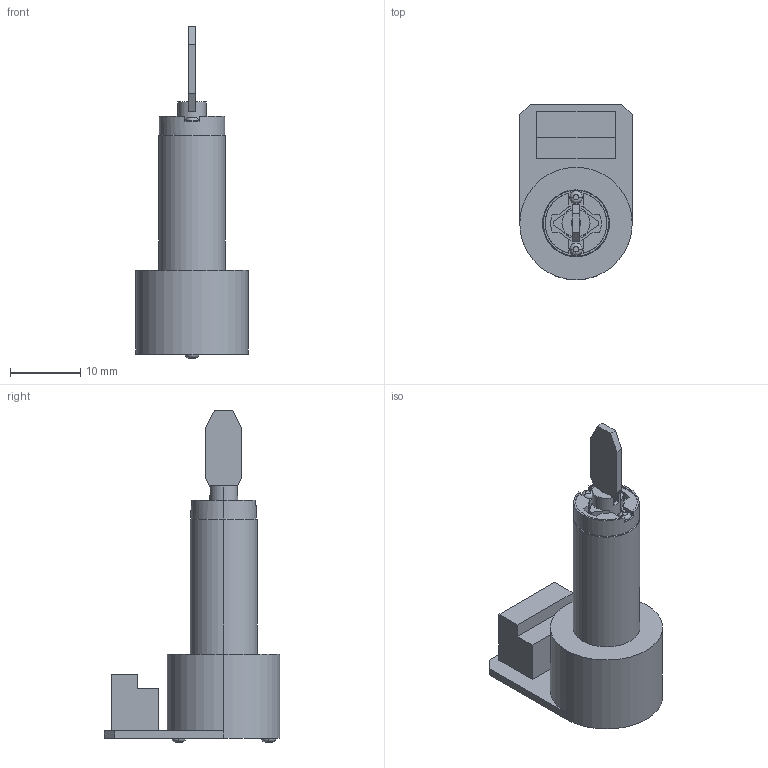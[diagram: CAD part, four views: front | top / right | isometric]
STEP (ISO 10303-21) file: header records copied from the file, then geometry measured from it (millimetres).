
FILE_DESCRIPTION (( 'STEP AP214' ), '1' );
FILE_NAME ('2002205_GVM-0930L-0010M GM7Y.STEP', '2022-11-17T08:14:22', ( '' ), ( '' ), 'SwSTEP 2.0', 'SolidWorks 2020', '' );
FILE_SCHEMA (( 'AUTOMOTIVE_DESIGN' ));
Length unit declared in the file: millimetre
Products named in the file (5): 2002205_GVM-0930L-0010M GM7Y; 2002201_GVM-0930L-00100; 501-068_GM7Y; 502-136a_GM7; 2001826_GM7Y(0930L用)
Assembly tree (4 placements, depth 3):
  2002205_GVM-0930L-0010M GM7Y
    2002201_GVM-0930L-00100
    2001826_GM7Y(0930L用)
      502-136a_GM7
      501-068_GM7Y
Bounding box: 16 x 25 x 47.2 mm (x, y, z)
Volume: 4724 mm3; surface area: 2673.1 mm2
Topology: 5 solids, 5 shells, 119 faces, 300 edges, 196 vertices
Faces by surface type: plane 77, cylinder 30, torus 8, cone 4
Entity records: 3790 total; most frequent: DIRECTION 664, CARTESIAN_POINT 623, ORIENTED_EDGE 600, EDGE_CURVE 300, AXIS2_PLACEMENT_3D 237, VERTEX_POINT 196, LINE 190, VECTOR 190
